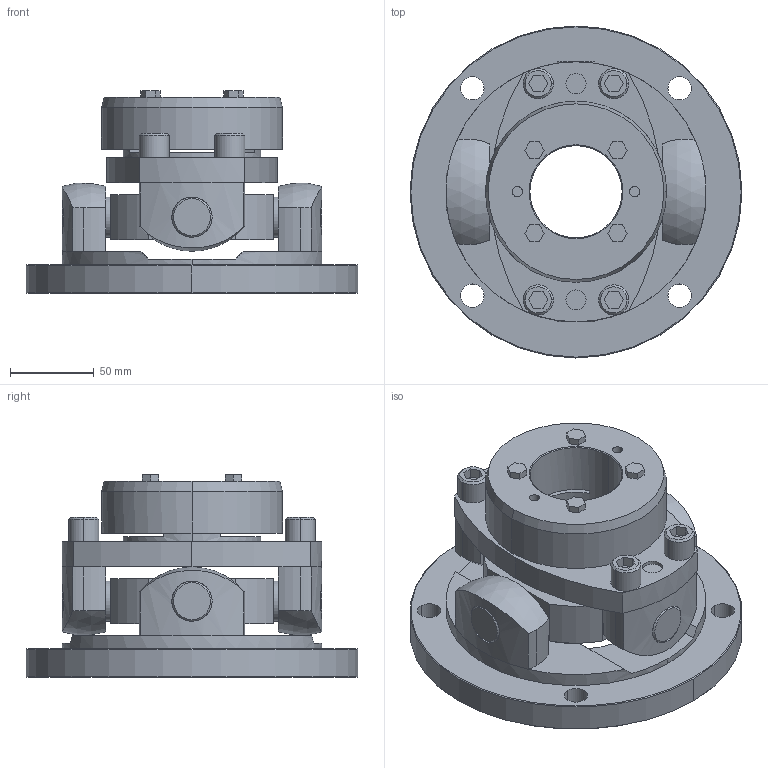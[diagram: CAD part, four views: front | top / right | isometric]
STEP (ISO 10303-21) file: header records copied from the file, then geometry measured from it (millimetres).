
FILE_DESCRIPTION((''),'2;1');
FILE_NAME('UCNF-155T7-55.stp','2011-09-27T13:09:02',(''),(''),'AutoCAD STEP 2000i','AutoCAD 2000i',', , ');
FILE_SCHEMA(('CONFIG_CONTROL_DESIGN'));
Length unit declared in the file: millimetre
Products named in the file (8): UCNF-155T7-55; 忣兜1; UCN155T7-T055; UCN155T7-T050; UCNF-15502; UCN155T7-T045-1; UCN155T7-T045; UCN155-SEN
Assembly tree (7 placements, depth 2):
  UCNF-155T7-55
    忣兜1
    UCN155T7-T055
    UCN155T7-T050
    UCNF-15502
    UCN155T7-T045-1
    UCN155T7-T045
    UCN155-SEN
Bounding box: 198 x 198 x 121 mm (x, y, z)
Volume: 1204562 mm3; surface area: 186858.7 mm2
Topology: 1 solids, 1 shells, 282 faces, 695 edges, 453 vertices
Faces by surface type: plane 132, cylinder 108, cone 38, sphere 4
Entity records: 9003 total; most frequent: CARTESIAN_POINT 1842, DIRECTION 1546, ORIENTED_EDGE 1390, EDGE_CURVE 695, AXIS2_PLACEMENT_3D 577, VERTEX_POINT 453, VECTOR 392, LINE 392
